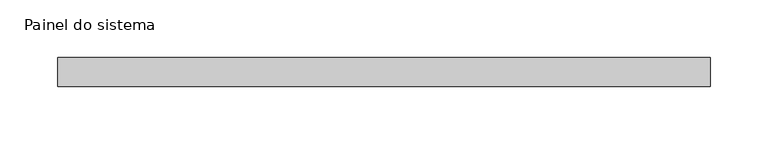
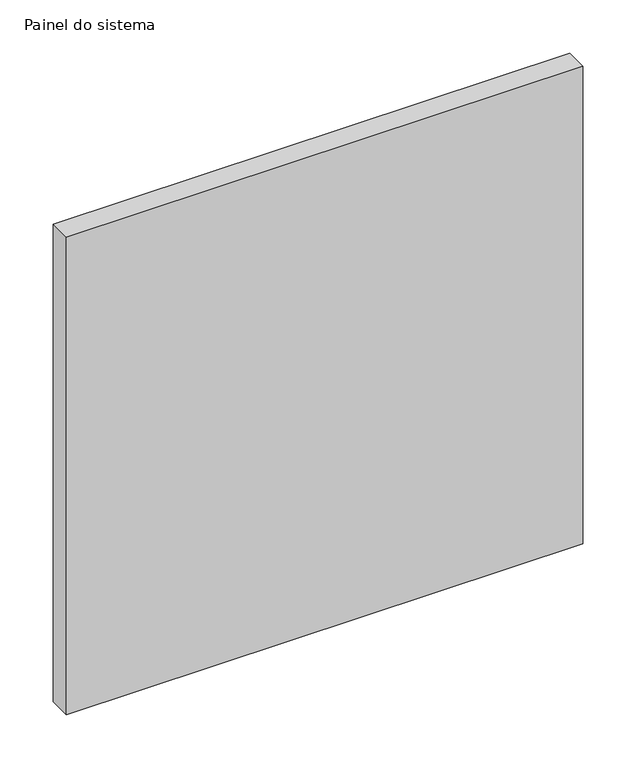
"""IFC4 building model written with IfcOpenShell, lengths in millimetres: plate geometry, Painel do sistema : Envidraçado."""

from ifc_helpers import new_model, si_unit, origin, origin_with_axes, place, context, project, spatial, polyline, outline, extrude, source, transform, mapped, element, save


def painel_do_sistema_d759ea94(model_context):
    return source(origin(), model_context, "Body", "SweptSolid", [
        extrude(outline(polyline([(281.25, 24.5), (-281.25, 24.5), (-281.25, 49.5), (281.25, 49.5), (281.25, 24.5)])), origin_with_axes(), (0.0, 0.0, 1.0), 550.0),
    ])


if __name__ == "__main__":
    model = new_model("IFC4")
    model_context = context("Model", 3, world=origin())
    ifc_project = project(units=[si_unit("LENGTHUNIT", "METRE", prefix="MILLI")], contexts=[model_context])
    site = spatial("IfcSite", under=ifc_project)
    building = spatial("IfcBuilding", under=site)
    placement = place(None, origin())
    painel_do_sistema_shape = painel_do_sistema_d759ea94(model_context)
    element("IfcPlate", 1, ObjectType="Painel do sistema : Envidraçado", at=placement, inside=building, context=model_context, shape_type="MappedRepresentation", body=[
        mapped(painel_do_sistema_shape, transform((0.0, 0.0, 0.0), x_axis=(1.0, 0.0, 0.0), y_axis=(0.0, 1.0, 0.0), z_axis=(0.0, 0.0, 1.0))),
    ])
    save(model, "model.ifc")
